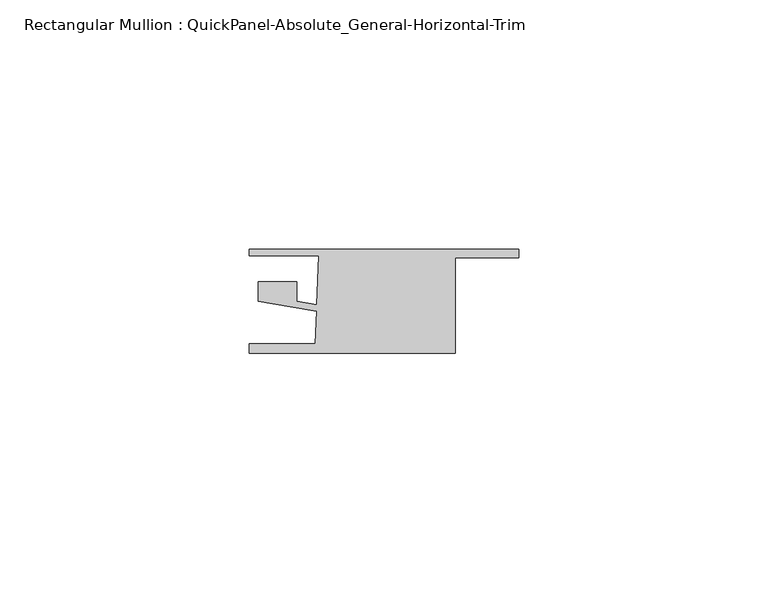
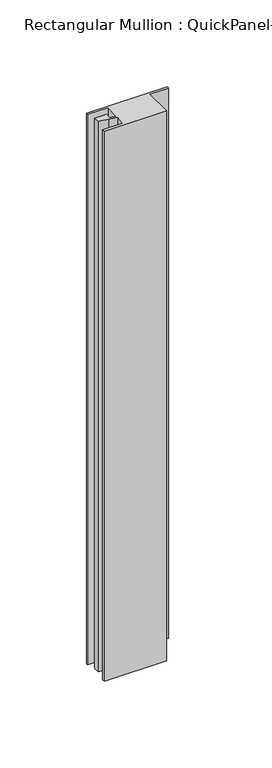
"""IFC4 building model written with IfcOpenShell, lengths in millimetres: member geometry, Rectangular Mullion : QuickPanel-Absolute_General-Horizontal-Trim."""

from ifc_helpers import new_model, si_unit, frame, origin, place, context, project, spatial, polyline, outline, extrude, source, transform, mapped, element, save


def rectangular_mullion_quickpanel_absolute_general_horizontal_ca4b5e77(model_context):
    return source(origin(), model_context, "Body", "SweptSolid", [
        extrude(outline(polyline([(-53.975, -8.6293878), (-53.975, -6.6935423), (-40.7340873, -6.6935423), (-40.5073021, -0.1992641), (-45.757583, 0.7008023), (-52.1929157, 1.8040245), (-52.1929157, 5.6493034), (-44.4481426, 5.6493034), (-44.4481426, 1.7648465), (-40.4625736, 1.0815922), (-40.1186466, 10.9303752), (-53.975, 10.9303752), (-53.975, 12.1803727), (0.0, 12.1803727), (0.0, 10.4985348), (-12.6805114, 10.4985348), (-12.6805114, -8.6293878), (-53.975, -8.6293878)])), frame((0.0, 0.0, -387.814328), z_axis=(0.0, 0.0, 1.0), x_axis=(1.0, 0.0, 0.0)), (0.0, 0.0, 1.0), 387.814328),
    ])


if __name__ == "__main__":
    model = new_model("IFC4")
    model_context = context("Model", 3, world=origin())
    ifc_project = project(units=[si_unit("LENGTHUNIT", "METRE", prefix="MILLI")], contexts=[model_context])
    site = spatial("IfcSite", under=ifc_project)
    building = spatial("IfcBuilding", under=site)
    placement = place(None, origin())
    rectangular_mullion_quickpanel_absolute_general_horizontal_shape = rectangular_mullion_quickpanel_absolute_general_horizontal_ca4b5e77(model_context)
    element("IfcMember", 1, ObjectType="Rectangular Mullion : QuickPanel-Absolute_General-Horizontal-Trim", at=placement, inside=building, context=model_context, shape_type="MappedRepresentation", body=[
        mapped(rectangular_mullion_quickpanel_absolute_general_horizontal_shape, transform((0.0, 0.0, 0.0), x_axis=(1.0, 0.0, 0.0), y_axis=(0.0, 1.0, 0.0), z_axis=(0.0, 0.0, 1.0))),
    ])
    save(model, "model.ifc")
